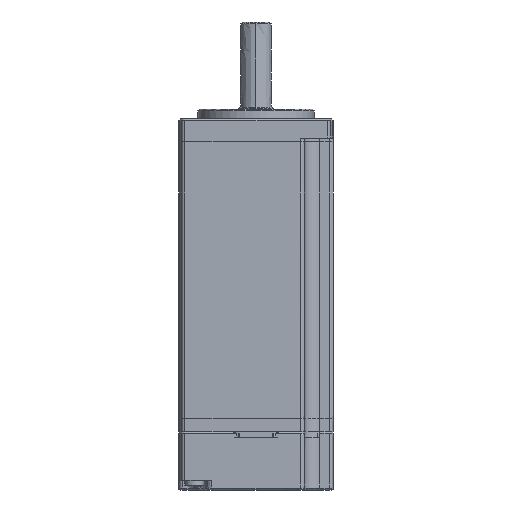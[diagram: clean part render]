
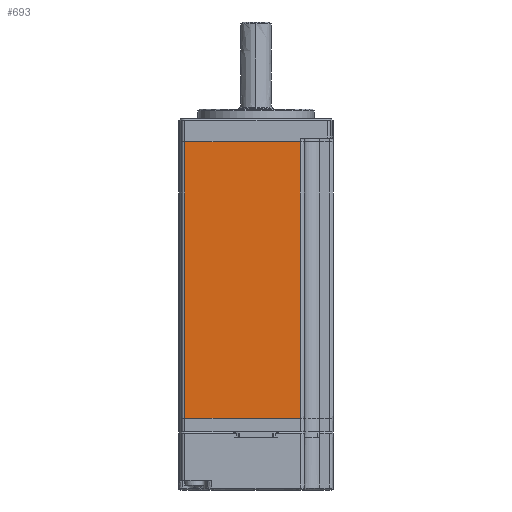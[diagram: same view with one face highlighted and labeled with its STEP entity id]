
A CAD part, front view. The second image highlights one B-rep face of the part: STEP entity #693.
In plain terms, the highlighted planar face has unit normal (0, 1, 0).
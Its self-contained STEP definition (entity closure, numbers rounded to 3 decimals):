
#693=ADVANCED_FACE('',(#1255),#9347,.T.);
#1255=FACE_OUTER_BOUND('',#1862,.T.);
#1862=EDGE_LOOP('',(#4529,#4530,#4531,#4532));
#4529=ORIENTED_EDGE('',*,*,#6266,.T.);
#4530=ORIENTED_EDGE('',*,*,#6267,.T.);
#4531=ORIENTED_EDGE('',*,*,#6268,.T.);
#4532=ORIENTED_EDGE('',*,*,#6269,.T.);
#6266=EDGE_CURVE('',#9072,#9073,#7344,.T.);
#6267=EDGE_CURVE('',#9073,#9074,#7345,.T.);
#6268=EDGE_CURVE('',#9074,#9075,#7346,.T.);
#6269=EDGE_CURVE('',#9075,#9072,#7347,.T.);
#7344=B_SPLINE_CURVE_WITH_KNOTS('',1,(#26354,#26355),.UNSPECIFIED.,.F.,
 .F.,(2,2),(0.,71.5),.UNSPECIFIED.);
#7345=B_SPLINE_CURVE_WITH_KNOTS('',1,(#26356,#26357),.UNSPECIFIED.,.F.,
 .F.,(2,2),(0.,29.897),.UNSPECIFIED.);
#7346=B_SPLINE_CURVE_WITH_KNOTS('',1,(#26358,#26359),.UNSPECIFIED.,.F.,
 .F.,(2,2),(0.,71.5),.UNSPECIFIED.);
#7347=B_SPLINE_CURVE_WITH_KNOTS('',1,(#26360,#26361),.UNSPECIFIED.,.F.,
 .F.,(2,2),(0.,29.897),.UNSPECIFIED.);
#9072=VERTEX_POINT('',#26276);
#9073=VERTEX_POINT('',#26277);
#9074=VERTEX_POINT('',#26278);
#9075=VERTEX_POINT('',#26279);
#9347=PLANE('',#9927);
#9927=AXIS2_PLACEMENT_3D('',#26014,#10137,$);
#10137=DIRECTION('',(0.,1.,0.));
#26014=CARTESIAN_POINT('',(-21.387,-20.,-7.151));
#26276=CARTESIAN_POINT('',(11.5,-20.,71.5));
#26277=CARTESIAN_POINT('',(11.5,-20.,0.));
#26278=CARTESIAN_POINT('',(-18.397,-20.,0.));
#26279=CARTESIAN_POINT('',(-18.397,-20.,71.5));
#26354=CARTESIAN_POINT('',(11.5,-20.,71.5));
#26355=CARTESIAN_POINT('',(11.5,-20.,0.));
#26356=CARTESIAN_POINT('',(11.5,-20.,0.));
#26357=CARTESIAN_POINT('',(-18.397,-20.,0.));
#26358=CARTESIAN_POINT('',(-18.397,-20.,0.));
#26359=CARTESIAN_POINT('',(-18.397,-20.,71.5));
#26360=CARTESIAN_POINT('',(-18.397,-20.,71.5));
#26361=CARTESIAN_POINT('',(11.5,-20.,71.5));
